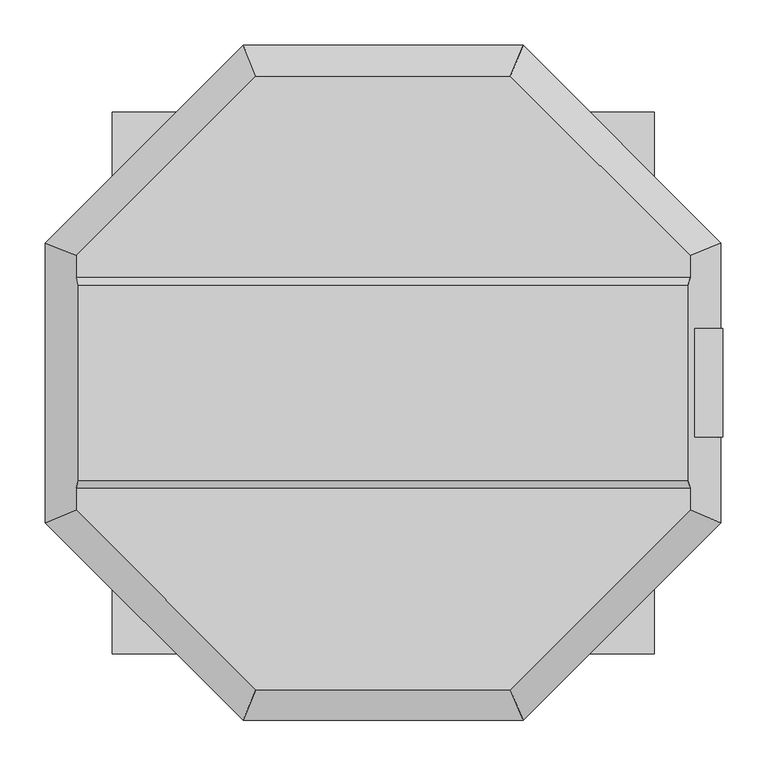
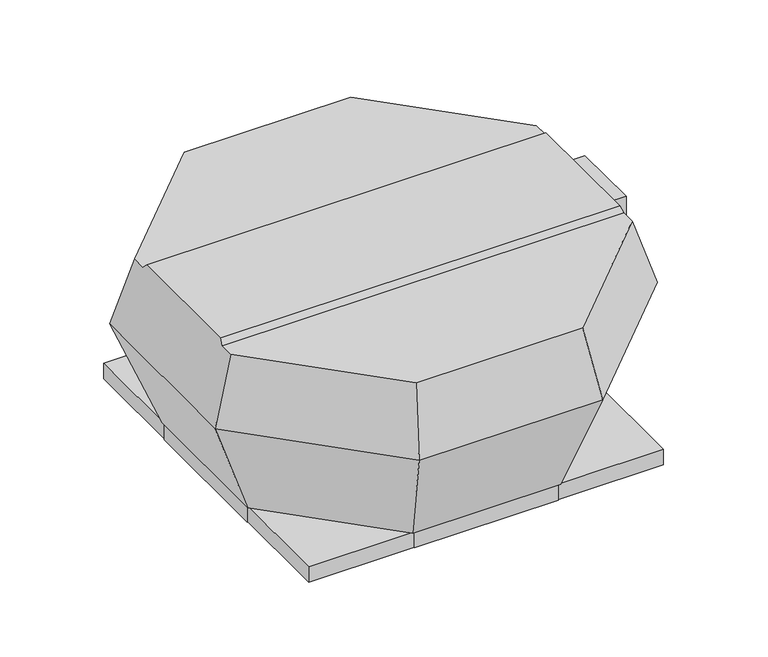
"""IFC4 building model written with IfcOpenShell, lengths in millimetres: unitary equipment geometry, VE-Wentylator-ParaForma-Harmann-VIVER_PS-Wywiewny : 4-400/3700S."""

from ifc_helpers import new_model, si_unit, point, frame, frame_2d, origin, place, context, project, spatial, polyline, circle_curve, ellipse_curve, trimmed, segment, composite_curve, outline, extrude, faceted_brep, source, transform, mapped, element, save
from ifc_brep_helpers import plane_surface, revolved_surface, advanced_brep


def unitary_equipment_8482c4d3(model_context):
    return source(origin(), model_context, "Body", "SolidModel", [
        advanced_brep(
        [(336.2765997, -107.5, 306.5), (336.2765997, 107.5, 306.5), (-336.2765997, 107.5, 306.5), (-336.2765997, -107.5, 306.5), (338.8348735, 116.05, 298.0), (-338.8348735, 116.05, 298.0), (338.8348735, -116.05, 298.0), (-338.8348735, -116.05, 298.0), (140.35, -338.8348735, 298.0), (338.8348735, -140.35, 298.0), (-338.8348735, -140.35, 298.0), (-140.35, -338.8348735, 298.0), (338.8348735, 140.35, 298.0), (140.35, 338.8348735, 298.0), (-140.35, 338.8348735, 298.0), (-338.8348735, 140.35, 298.0), (154.4, -372.754574, 185.3), (372.754574, -154.4, 185.3), (372.754574, 154.4, 185.3), (370.0030463, -60.0, 194.4420965), (343.951421, -60.0, 281.0), (343.951421, 60.0, 281.0), (370.0030463, 60.0, 194.4420965), (366.2535489, 0.0, 206.9), (347.593199, 0.0, 268.9), (154.4, 372.754574, 185.3), (-154.4, 372.754574, 185.3), (-372.754574, 154.4, 185.3), (-372.754574, -154.4, 185.3), (-154.4, -372.754574, 185.3), (374.7, -60.0, 206.7), (374.7, -60.0, 281.0), (374.7, 60.0, 281.0), (374.7, 60.0, 206.7), (374.7, 0.0, 268.9), (374.7, 0.0, 206.9), (124.8, -301.2938526, 1.5), (-124.8, -301.2938526, 1.5), (-301.2938526, -124.8, 1.5), (-301.2938526, 124.8, 1.5), (-124.8, 301.2938526, 1.5), (124.8, 301.2938526, 1.5), (301.2938526, 124.8, 1.5), (301.2938526, -124.8, 1.5)],
        [
            (0, 1),
            (1, 2),
            (2, 3),
            (3, 0),
            (1, 4),
            (4, 5),
            (5, 2),
            (6, 0),
            (3, 7),
            (7, 6),
            (8, 9),
            (9, 6),
            (7, 10),
            (10, 11),
            (11, 8),
            (12, 13),
            (13, 14),
            (14, 15),
            (15, 5),
            (4, 12),
            (8, 16),
            (16, 17),
            (17, 9),
            (17, 18),
            (18, 12),
            (19, 20),
            (20, 21),
            (21, 22),
            (22, 19),
            (23, 24, ellipse_curve(frame((356.923374, 0.0, 237.9), z_axis=(0.9575693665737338, 0.0, 0.28820289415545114), x_axis=(-0.2882028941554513, 0.0, 0.9575693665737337)), 32.3736338, 31.0)),
            (24, 23, ellipse_curve(frame((356.923374, 0.0, 237.9), z_axis=(0.9575693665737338, 0.0, 0.28820289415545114), x_axis=(-0.2882028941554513, 0.0, 0.9575693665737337)), 32.3736338, 31.0)),
            (18, 25),
            (25, 13),
            (25, 26),
            (26, 14),
            (26, 27),
            (27, 15),
            (27, 28),
            (28, 10),
            (28, 29),
            (29, 11),
            (29, 16),
            (30, 31),
            (31, 20),
            (19, 30),
            (32, 33),
            (33, 22),
            (21, 32),
            (30, 33),
            (32, 31),
            (34, 35, circle_curve(frame((374.7, 0.0, 237.9), z_axis=(-1.0, 0.0, 0.0), x_axis=(0.0, 0.0, -1.0)), 31.0)),
            (35, 34, circle_curve(frame((374.7, 0.0, 237.9), z_axis=(-1.0, 0.0, 0.0), x_axis=(0.0, 0.0, -1.0)), 31.0)),
            (36, 37),
            (37, 38),
            (38, 39),
            (39, 40),
            (40, 41),
            (41, 42),
            (42, 43),
            (43, 36),
            (43, 17),
            (16, 36),
            (42, 18),
            (41, 25),
            (40, 26),
            (39, 27),
            (38, 28),
            (37, 29),
            (34, 24),
            (23, 35),
        ],
        [
            plane_surface(frame((0.0, 0.0, 306.5), z_axis=(0.0, 0.0, 1.0), x_axis=(0.0, 1.0, 0.0))),
            plane_surface(frame((0.0, 116.05, 298.0), z_axis=(0.0, 0.7050301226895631, 0.7091773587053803), x_axis=(-1.0, 0.0, 0.0))),
            plane_surface(frame((0.0, -116.05, 298.0), z_axis=(0.0, -0.7050301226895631, 0.7091773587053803), x_axis=(1.0, 0.0, 0.0))),
            plane_surface(frame((0.0, 0.0, 298.0), z_axis=(0.0, 0.0, 1.0000000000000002), x_axis=(0.7071067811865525, 0.7071067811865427, 0.0))),
            plane_surface(frame((263.577287, -263.577287, 185.3), z_axis=(0.6771037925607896, -0.6771037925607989, 0.28820289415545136), x_axis=(0.7071067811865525, 0.7071067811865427, 0.0))),
            plane_surface(frame((372.754574, 0.0, 185.3), z_axis=(0.9575693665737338, 0.0, 0.28820289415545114), x_axis=(0.0, 1.0, 0.0))),
            plane_surface(frame((263.577287, 263.577287, 185.3), z_axis=(0.6771037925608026, 0.6771037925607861, 0.2882028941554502), x_axis=(-0.7071067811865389, 0.7071067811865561, 0.0))),
            plane_surface(frame((0.0, 372.754574, 185.3), z_axis=(0.0, 0.9575693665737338, 0.28820289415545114), x_axis=(-1.0, 0.0, 0.0))),
            plane_surface(frame((-263.577287, 263.577287, 185.3), z_axis=(-0.6771037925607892, 0.6771037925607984, 0.28820289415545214), x_axis=(-0.7071067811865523, -0.7071067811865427, 0.0))),
            plane_surface(frame((-372.754574, 0.0, 185.3), z_axis=(-0.9575693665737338, 0.0, 0.28820289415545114), x_axis=(0.0, -1.0, 0.0))),
            plane_surface(frame((-263.577287, -263.577287, 185.3), z_axis=(-0.6771037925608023, -0.6771037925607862, 0.2882028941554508), x_axis=(0.7071067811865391, -0.7071067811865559, 0.0))),
            plane_surface(frame((0.0, -372.754574, 185.3), z_axis=(0.0, -0.9575693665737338, 0.28820289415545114), x_axis=(1.0, 0.0, 0.0))),
            plane_surface(frame((0.0, -60.0, 0.0), z_axis=(0.0, -1.0, 0.0), x_axis=(0.0, 0.0, 1.0))),
            plane_surface(frame((0.0, 60.0, 0.0), z_axis=(0.0, 1.0, 0.0), x_axis=(0.0, 0.0, 1.0))),
            plane_surface(frame((374.7, -60.0, 206.7), z_axis=(1.0, 0.0, 0.0), x_axis=(0.0, 1.0, 0.0))),
            plane_surface(frame((374.7, -60.0, 281.0), z_axis=(0.0, 0.0, 1.0), x_axis=(0.0, 1.0, 0.0))),
            plane_surface(frame((366.5, -60.0, 185.3), z_axis=(0.9337947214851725, 0.0, -0.35780919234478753), x_axis=(0.0, 1.0, 0.0))),
            plane_surface(frame((0.0, 0.0, 1.5), z_axis=(0.0, 0.0, -1.0000000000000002), x_axis=(0.7071067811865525, 0.7071067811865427, 0.0))),
            plane_surface(frame((213.0469263, -213.0469263, 1.5), z_axis=(0.659047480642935, -0.6590474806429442, -0.3623711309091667), x_axis=(0.7071067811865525, 0.7071067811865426, 0.0))),
            plane_surface(frame((301.2938526, 0.0, 1.5), z_axis=(0.932033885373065, 0.0, -0.3623711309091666), x_axis=(0.0, 1.0, 0.0))),
            plane_surface(frame((213.0469263, 213.0469263, 1.5), z_axis=(0.6590474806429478, 0.6590474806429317, -0.3623711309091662), x_axis=(-0.7071067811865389, 0.7071067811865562, 0.0))),
            plane_surface(frame((0.0, 301.2938526, 1.5), z_axis=(0.0, 0.932033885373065, -0.3623711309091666), x_axis=(-1.0, 0.0, 0.0))),
            plane_surface(frame((-213.0469263, 213.0469263, 1.5), z_axis=(-0.6590474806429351, 0.659047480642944, -0.36237113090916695), x_axis=(-0.7071067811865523, -0.7071067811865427, 0.0))),
            plane_surface(frame((-301.2938526, 0.0, 1.5), z_axis=(-0.932033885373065, 0.0, -0.3623711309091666), x_axis=(0.0, -1.0, 0.0))),
            plane_surface(frame((-213.0469263, -213.0469263, 1.5), z_axis=(-0.6590474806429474, -0.6590474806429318, -0.36237113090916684), x_axis=(0.7071067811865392, -0.7071067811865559, 0.0))),
            plane_surface(frame((0.0, -301.2938526, 1.5), z_axis=(0.0, -0.932033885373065, -0.3623711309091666), x_axis=(1.0, 0.0, 0.0))),
            revolved_surface(polyline([(347.593199, 0.0, 206.9), (374.7, 0.0, 206.9)]), (0.0, 0.0, 237.9), (-1.0, 0.0, 0.0)),
        ],
        [
            (0, [[1, 2, 3, 4]]),
            (1, [[5, 6, 7, -2]]),
            (2, [[8, -4, 9, 10]]),
            (3, [[11, 12, -10, 13, 14, 15]]),
            (3, [[16, 17, 18, 19, -6, 20]]),
            (4, [[-11, 21, 22, 23]]),
            (5, [[-23, 24, 25, -20, -5, -1, -8, -12], [26, 27, 28, 29]]),
            (5, [[30, 31]]),
            (6, [[-16, -25, 32, 33]]),
            (7, [[-17, -33, 34, 35]]),
            (8, [[-18, -35, 36, 37]]),
            (9, [[-37, 38, 39, -13, -9, -3, -7, -19]]),
            (10, [[-14, -39, 40, 41]]),
            (11, [[-15, -41, 42, -21]]),
            (12, [[43, 44, -26, 45]]),
            (13, [[46, 47, -28, 48]]),
            (14, [[-43, 49, -46, 50], [51, 52]]),
            (15, [[-50, -48, -27, -44]]),
            (16, [[-49, -45, -29, -47]]),
            (17, [[53, 54, 55, 56, 57, 58, 59, 60]]),
            (18, [[-60, 61, -22, 62]]),
            (19, [[-59, 63, -24, -61]]),
            (20, [[-58, 64, -32, -63]]),
            (21, [[-57, 65, -34, -64]]),
            (22, [[-56, 66, -36, -65]]),
            (23, [[-55, 67, -38, -66]]),
            (24, [[-54, 68, -40, -67]]),
            (25, [[-53, -62, -42, -68]]),
            (26, [[-51, 69, -30, 70]]),
            (26, [[-52, -70, -31, -69]]),
        ],
    ),
        faceted_brep([(297.55, 297.55, -26.6), (297.55, 297.55, 0.0), (-297.55, 297.55, 0.0), (-297.55, 297.55, -26.6), (299.05, 299.05, 1.5), (299.05, 299.05, -26.6), (-299.05, 299.05, -26.6), (-299.05, 299.05, 1.5), (-297.55, -297.55, 0.0), (-297.55, -297.55, -26.6), (-299.05, -299.05, -26.6), (-299.05, -299.05, 1.5), (297.55, -297.55, 0.0), (297.55, -297.55, -26.6), (299.05, -299.05, -26.6), (299.05, -299.05, 1.5)], [[[0, 1, 2, 3]], [[4, 5, 6, 7]], [[3, 2, 8, 9]], [[7, 6, 10, 11]], [[9, 8, 12, 13]], [[11, 10, 14, 15]], [[13, 12, 1, 0]], [[5, 14, 10, 6], [3, 9, 13, 0]], [[15, 14, 5, 4]], [[7, 11, 15, 4]], [[1, 12, 8, 2]]]),
        extrude(outline(composite_curve([segment(trimmed(circle_curve(frame_2d((0.0, 237.9)), 31.0), [point((0.0, 268.9))], [point((0.0, 206.9))], False, "CARTESIAN"), True, "CONTINUOUS"), segment(trimmed(circle_curve(frame_2d((0.0, 237.9)), 31.0), [point((0.0, 206.9))], [point((0.0, 268.9))], False, "CARTESIAN"), True, "CONTINUOUS")], self_intersect=False)), frame((364.7, 0.0, 0.0), z_axis=(1.0, 0.0, 0.0), x_axis=(0.0, 1.0, 0.0)), (0.0, 0.0, 1.0), 10.0),
        faceted_brep([(-299.1, -121.3, -26.6), (-300.1, -121.3, -26.6), (-300.1, 121.3, -26.6), (-299.1, 121.3, -26.6), (-299.1, -121.3, 1.5), (-299.1, 121.3, 1.5), (-300.1, 121.3, 1.5), (-300.1, -121.3, 1.5)], [[[0, 1, 2, 3]], [[4, 5, 6, 7]], [[1, 0, 4, 7]], [[2, 1, 7, 6]], [[3, 2, 6, 5]], [[0, 3, 5, 4]]]),
        faceted_brep([(300.1, -121.3, -26.6), (299.1, -121.3, -26.6), (299.1, 121.3, -26.6), (300.1, 121.3, -26.6), (300.1, 121.3, 1.5), (299.1, 121.3, 1.5), (299.1, -121.3, 1.5), (300.1, -121.3, 1.5), (300.1, -94.8, 1.5), (324.0, -78.2, 1.5), (324.0, 78.2, 1.5), (300.1, 94.8, 1.5), (300.1, 94.8, 0.0), (300.1, -94.8, 0.0), (324.0, 78.2, 0.0), (320.9, 78.2, 0.0), (320.9, -78.2, 0.0), (324.0, -78.2, 0.0), (324.0, -78.2, -21.0), (324.0, 78.2, -21.0), (320.9, -78.2, -21.0), (320.9, 78.2, -21.0)], [[[0, 1, 2, 3]], [[4, 5, 6, 7, 8, 9, 10, 11]], [[1, 0, 7, 6]], [[2, 1, 6, 5]], [[3, 2, 5, 4]], [[0, 3, 4, 11, 12, 13, 8, 7]], [[12, 14, 15, 16, 17, 13]], [[14, 12, 11, 10]], [[10, 9, 17, 18, 19, 14]], [[13, 17, 9, 8]], [[20, 16, 15, 21]], [[16, 20, 18, 17]], [[21, 15, 14, 19]], [[20, 21, 19, 18]]]),
        faceted_brep([(121.3, 299.1, -26.6), (-121.3, 299.1, -26.6), (-121.3, 300.1, -26.6), (121.3, 300.1, -26.6), (121.3, 299.1, 1.5), (121.3, 300.1, 1.5), (-121.3, 300.1, 1.5), (-121.3, 299.1, 1.5)], [[[0, 1, 2, 3]], [[4, 5, 6, 7]], [[1, 0, 4, 7]], [[2, 1, 7, 6]], [[3, 2, 6, 5]], [[0, 3, 5, 4]]]),
        faceted_brep([(121.3, -300.1, -26.6), (-121.3, -300.1, -26.6), (-121.3, -299.1, -26.6), (121.3, -299.1, -26.6), (121.3, -300.1, 1.5), (121.3, -299.1, 1.5), (-121.3, -299.1, 1.5), (-121.3, -300.1, 1.5)], [[[0, 1, 2, 3]], [[4, 5, 6, 7]], [[1, 0, 4, 7]], [[2, 1, 7, 6]], [[3, 2, 6, 5]], [[0, 3, 5, 4]]]),
    ])


if __name__ == "__main__":
    model = new_model("IFC4")
    model_context = context("Model", 3, world=origin())
    ifc_project = project(units=[si_unit("LENGTHUNIT", "METRE", prefix="MILLI")], contexts=[model_context])
    site = spatial("IfcSite", under=ifc_project)
    building = spatial("IfcBuilding", under=site)
    placement = place(None, origin())
    unitary_equipment_shape = unitary_equipment_8482c4d3(model_context)
    element("IfcUnitaryEquipment", 1, ObjectType="VE-Wentylator-ParaForma-Harmann-VIVER_PS-Wywiewny : 4-400/3700S", at=placement, inside=building, context=model_context, shape_type="MappedRepresentation", body=[
        mapped(unitary_equipment_shape, transform((0.0, 0.0, 0.0), x_axis=(1.0, 0.0, 0.0), y_axis=(0.0, 1.0, 0.0), z_axis=(0.0, 0.0, 1.0))),
    ])
    save(model, "model.ifc")
